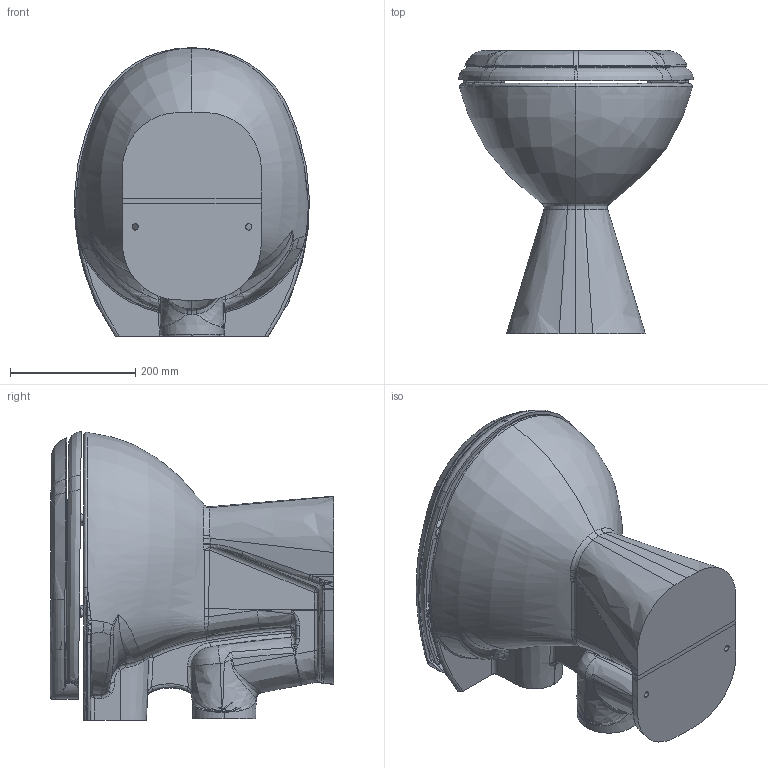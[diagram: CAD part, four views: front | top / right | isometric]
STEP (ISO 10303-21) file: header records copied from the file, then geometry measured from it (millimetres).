
FILE_DESCRIPTION (( 'STEP AP203' ), '1' );
FILE_NAME ('TP330.STEP', '2018-08-02T08:52:45', ( '' ), ( '' ), 'SwSTEP 2.0', 'SolidWorks 2018', '' );
FILE_SCHEMA (( 'CONFIG_CONTROL_DESIGN' ));
Products named in the file (1): TP330
Bounding box: 374.56 x 452.55 x 460.03 mm (x, y, z)
Volume: 24177480.1 mm3; surface area: 1198663.7 mm2
Topology: 4 solids, 4 shells, 686 faces, 1744 edges, 1043 vertices
Faces by surface type: bspline 429, cylinder 95, plane 93, torus 53, sphere 10, cone 6
Entity records: 64477 total; most frequent: CARTESIAN_POINT 51457, ORIENTED_EDGE 3434, EDGE_CURVE 1717, DIRECTION 1666, VERTEX_POINT 1043, B_SPLINE_CURVE_WITH_KNOTS 971, AXIS2_PLACEMENT_3D 697, EDGE_LOOP 696
